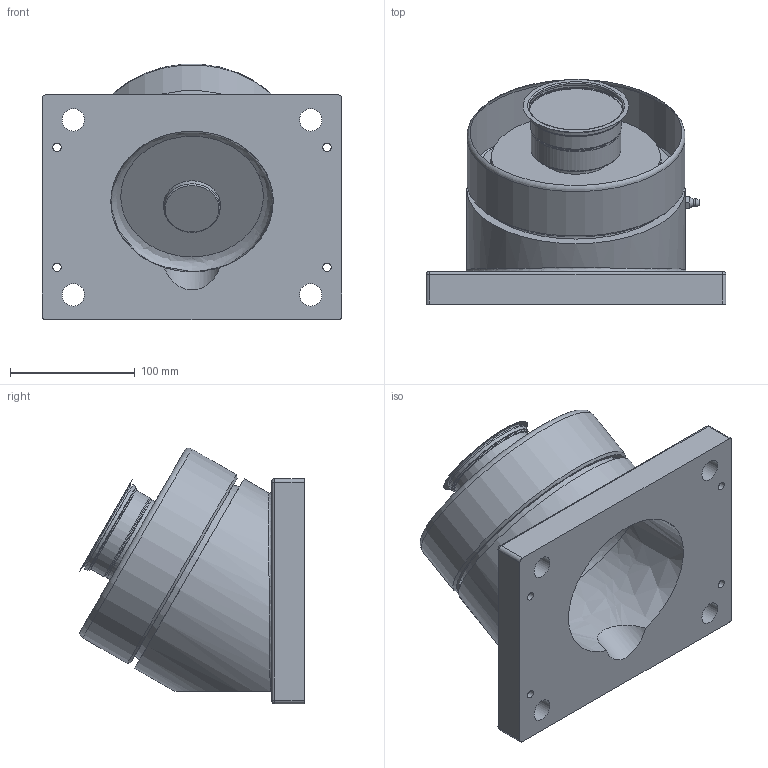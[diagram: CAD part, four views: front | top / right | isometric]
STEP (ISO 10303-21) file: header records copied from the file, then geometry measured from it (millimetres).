
FILE_DESCRIPTION(/* description */ (''),/* implementation_level */ '2;1');
FILE_NAME(/* name */ 'Z:\35-j-ito\製品モデル\SW-I\SW-180-I\HP用\SW-180-I.stp',/* time_stamp */ '2022-04-04T17:51:17+09:00',/* author */ ('j-ito'),/* organization */ (''),/* preprocessor_version */ 'ST-DEVELOPER v18.1',/* originating_system */ 'Autodesk Inventor 2022',/* authorisation */ '');
FILE_SCHEMA (('AUTOMOTIVE_DESIGN { 1 0 10303 214 3 1 1 }'));
Length unit declared in the file: millimetre
Products named in the file (3): SW-180-I; SW-180-I_1; グリスニップル
Assembly tree (2 placements, depth 2):
  SW-180-I
    SW-180-I_1
    グリスニップル
Bounding box: 240 x 179.93 x 204.54 mm (x, y, z)
Volume: 3049950.7 mm3; surface area: 314001.7 mm2
Topology: 2 solids, 4 shells, 127 faces, 267 edges, 170 vertices
Faces by surface type: cylinder 45, plane 42, cone 26, bspline 7, torus 7
Full cylindrical faces by diameter (mm): 1.5 x1, 5 x1, 6.65 x4, 8 x1, 18 x4, 30 x1, 35 x2, 38 x2, 45 x1, 46 x1, 56 x1, 64 x2, 65 x1, 72 x1, 72.1 x1, 73 x1, 75 x1, 75.5 x2, 78 x1, 90 x1, 135.1 x1, 137 x1, 138 x1, 175 x2
Entity records: 4127 total; most frequent: CARTESIAN_POINT 1120, DIRECTION 631, ORIENTED_EDGE 530, AXIS2_PLACEMENT_3D 273, EDGE_CURVE 265, EDGE_LOOP 171, VERTEX_POINT 170, CIRCLE 141
